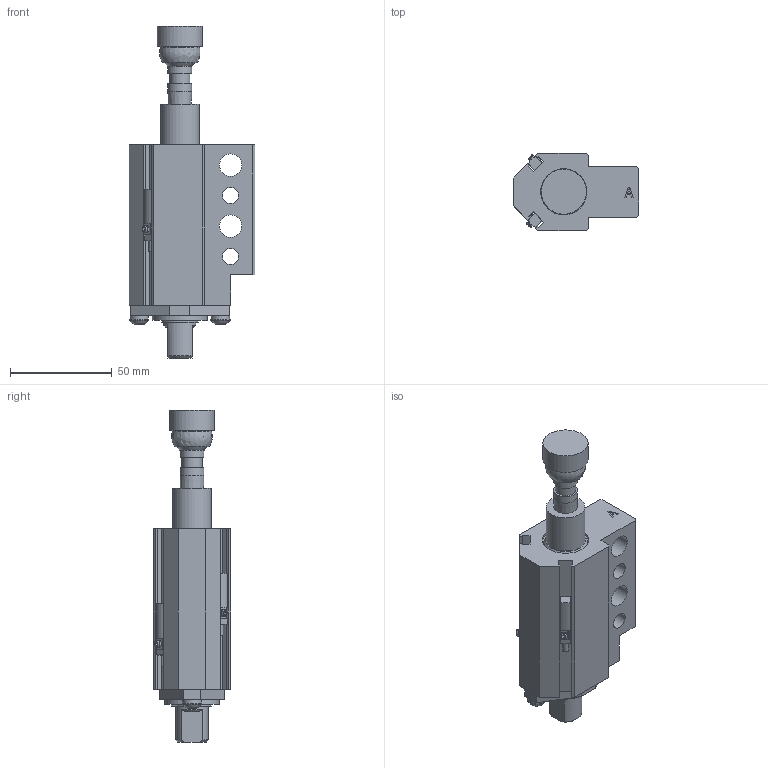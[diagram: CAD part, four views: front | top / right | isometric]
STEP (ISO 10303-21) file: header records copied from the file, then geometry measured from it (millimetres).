
FILE_DESCRIPTION(/* description */ ('MINI PASS THRU GROUND BLOCK'),/* implementation_level */ '2;1');
FILE_NAME(/* name */ 'C:\Vault Workspace\CAD\Welker\Cylinders\GBM\GBMEAL3.stp',/* time_stamp */ '2021-06-25T07:32:55-04:00',/* author */ ('KPL'),/* organization */ (''),/* preprocessor_version */ 'ST-DEVELOPER v18.1',/* originating_system */ 'Autodesk Inventor 2020',/* authorisation */ '');
FILE_SCHEMA (('AUTOMOTIVE_DESIGN { 1 0 10303 214 3 1 1 }'));
Products named in the file (11): GBML01; 91590A126; 96100A152; L3 Sensor 1; M5X0.8-10 BHCS; NL5; GBME01A; GBME02; GBME04; SN-147; AN-05U2145
Assembly tree (13 placements, depth 2):
  GBML01
    91590A126
    96100A152
    L3 Sensor 1  x2
    M5X0.8-10 BHCS  x2
    NL5  x2
    GBME01A
    GBME02
    GBME04
    SN-147
    AN-05U2145
Bounding box: 62 x 38.1 x 163.5 mm (x, y, z)
Volume: 132155.9 mm3; surface area: 49878.3 mm2
Topology: 13 solids, 13 shells, 437 faces, 1198 edges, 802 vertices
Faces by surface type: plane 312, cylinder 97, cone 18, torus 4, sphere 4, bspline 2
Full cylindrical faces by diameter (mm): 1.194 x2, 2.9 x2, 4.134 x2, 5 x2, 5.4 x2, 5.5 x2, 6.647 x1, 8 x2, 9 x2, 9.5 x2, 10 x1, 11 x2, 11.76 x2, 14.935 x1, 15.875 x3, 16.383 x1, 19.05 x1, 19.177 x1, 22.225 x3, 22.784 x1, 24.613 x1, 25.654 x1, 25.705 x1, 26.987 x1, 28.591 x1, 28.667 x1
Entity records: 9983 total; most frequent: CARTESIAN_POINT 1738, DIRECTION 1662, ORIENTED_EDGE 1576, EDGE_CURVE 788, AXIS2_PLACEMENT_3D 573, VERTEX_POINT 539, LINE 516, VECTOR 516
